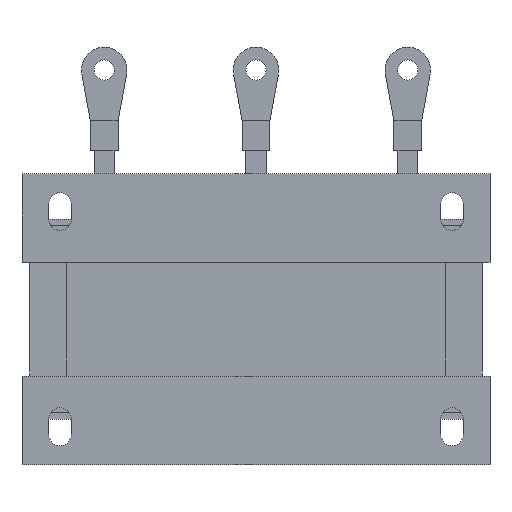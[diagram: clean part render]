
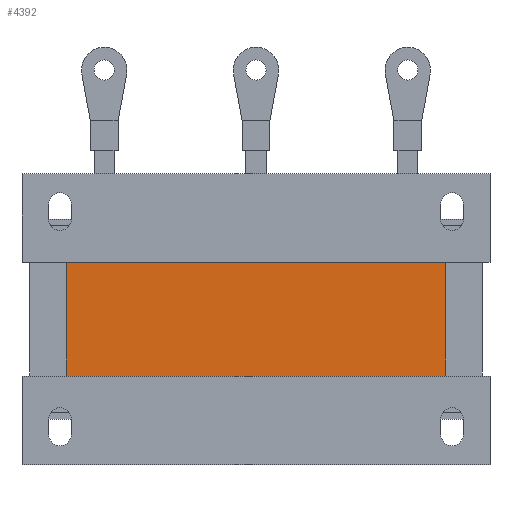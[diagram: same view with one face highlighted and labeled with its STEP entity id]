
A CAD part, front view. The second image highlights one B-rep face of the part: STEP entity #4392.
In plain terms, the highlighted planar face has unit normal (0, -1, 0).
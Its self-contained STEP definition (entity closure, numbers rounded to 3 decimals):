
#98=PLANE('',#4717);
#312=FACE_OUTER_BOUND('',#574,.T.);
#574=EDGE_LOOP('',(#3155,#3156,#3157,#3158));
#899=LINE('',#6485,#1421);
#900=LINE('',#6487,#1422);
#901=LINE('',#6489,#1423);
#902=LINE('',#6490,#1424);
#1421=VECTOR('',#5202,10.);
#1422=VECTOR('',#5203,10.);
#1423=VECTOR('',#5204,10.);
#1424=VECTOR('',#5205,10.);
#2049=VERTEX_POINT('',#6483);
#2050=VERTEX_POINT('',#6484);
#2051=VERTEX_POINT('',#6486);
#2052=VERTEX_POINT('',#6488);
#2491=EDGE_CURVE('',#2049,#2050,#899,.T.);
#2492=EDGE_CURVE('',#2051,#2049,#900,.T.);
#2493=EDGE_CURVE('',#2052,#2051,#901,.T.);
#2494=EDGE_CURVE('',#2050,#2052,#902,.T.);
#3155=ORIENTED_EDGE('',*,*,#2491,.F.);
#3156=ORIENTED_EDGE('',*,*,#2492,.F.);
#3157=ORIENTED_EDGE('',*,*,#2493,.F.);
#3158=ORIENTED_EDGE('',*,*,#2494,.F.);
#4392=ADVANCED_FACE('',(#312),#98,.F.);
#4717=AXIS2_PLACEMENT_3D('',#6482,#5200,#5201);
#5200=DIRECTION('center_axis',(0.,1.,0.));
#5201=DIRECTION('ref_axis',(0.,0.,1.));
#5202=DIRECTION('',(1.,0.,0.));
#5203=DIRECTION('',(0.,0.,1.));
#5204=DIRECTION('',(-1.,0.,0.));
#5205=DIRECTION('',(0.,0.,-1.));
#6482=CARTESIAN_POINT('Origin',(0.,2.,0.));
#6483=CARTESIAN_POINT('',(-75.,2.,22.5));
#6484=CARTESIAN_POINT('',(75.,2.,22.5));
#6485=CARTESIAN_POINT('',(75.,2.,22.5));
#6486=CARTESIAN_POINT('',(-75.,2.,-22.5));
#6487=CARTESIAN_POINT('',(-75.,2.,-11.25));
#6488=CARTESIAN_POINT('',(75.,2.,-22.5));
#6489=CARTESIAN_POINT('',(-75.,2.,-22.5));
#6490=CARTESIAN_POINT('',(75.,2.,11.25));
